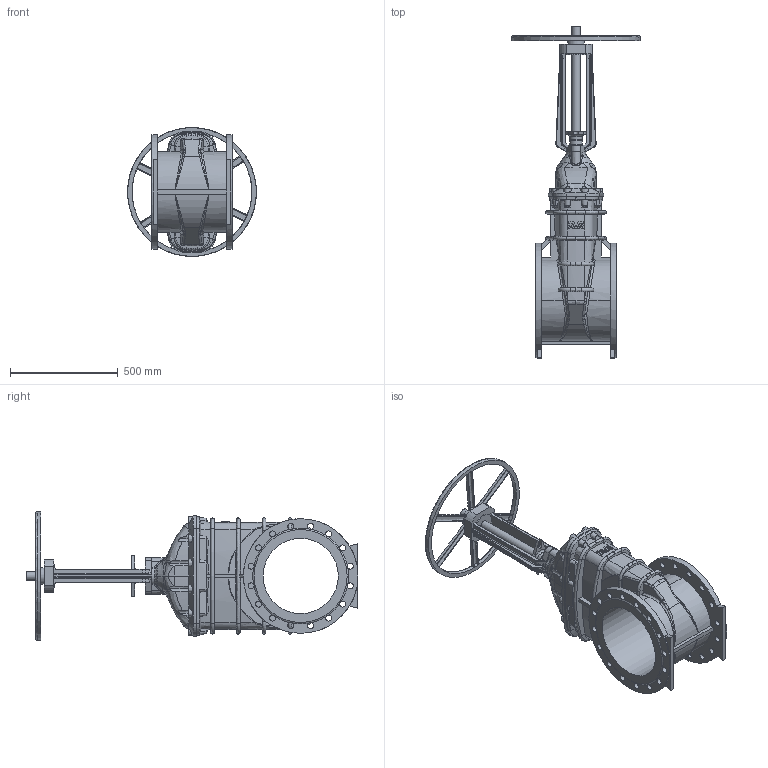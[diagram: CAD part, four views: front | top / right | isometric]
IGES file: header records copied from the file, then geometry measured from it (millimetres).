
Start section: SolidWorks IGES file using analytic representation for surfaces
Global section: file name: \\avksan2\techshare\PBM outline export from Enovia\O_21_34_DN350_41XXXXX close_AA0.igs; native system: SolidWorks 2012; preprocessor: SolidWorks 2012; author: pbm; date: 200212.104632; units: millimetre
Bounding box: 598.51 x 1543.5 x 598.51 mm (x, y, z)
Surface area: 2996494.4 mm2 (no closed solid volume)
Topology: 0 solids, 0 shells, 889 faces, 5099 edges, 5029 vertices
Faces by surface type: revolution 463, bspline 426
